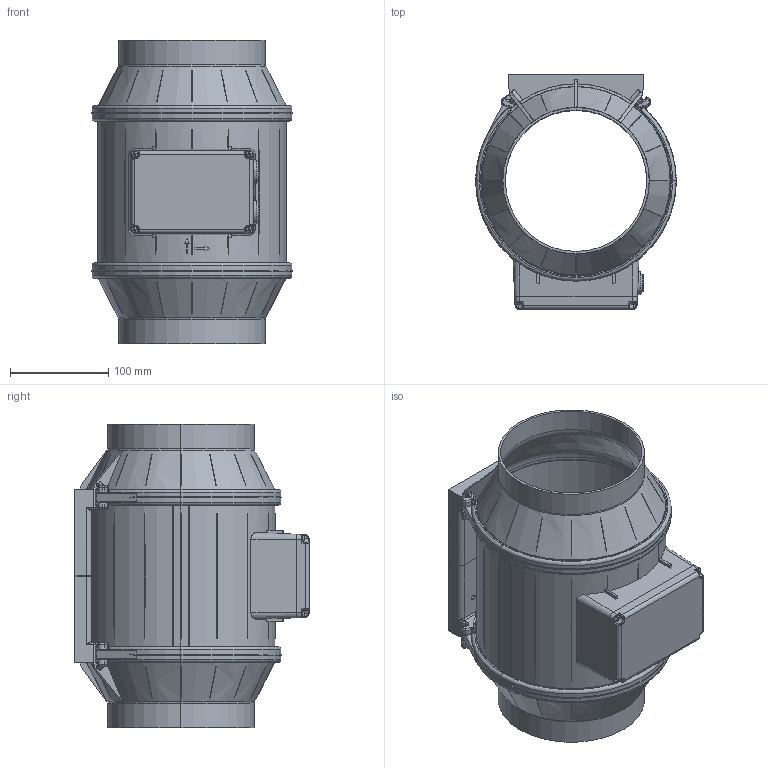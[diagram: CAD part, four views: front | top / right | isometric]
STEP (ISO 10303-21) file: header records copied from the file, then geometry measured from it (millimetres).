
FILE_DESCRIPTION (( 'STEP AP203' ), '1' );
FILE_NAME ('128588-01_EM150LEC01.STEP', '2014-09-26T09:28:20', ( '' ), ( '' ), 'SwSTEP 2.0', 'SolidWorks 2012', '' );
FILE_SCHEMA (( 'CONFIG_CONTROL_DESIGN' ));
Products named in the file (1): 128588-01_EM150LEC01
Bounding box: 204 x 238.55 x 309 mm (x, y, z)
Surface area: 490577.5 mm2 (no closed solid volume)
Topology: 0 solids, 21 shells, 1278 faces, 4286 edges, 2870 vertices
Faces by surface type: cylinder 436, plane 342, torus 214, bspline 188, cone 80, sphere 18
Entity records: 68083 total; most frequent: CARTESIAN_POINT 34166, ORIENTED_EDGE 6890, DIRECTION 6619, EDGE_CURVE 4248, VERTEX_POINT 2862, AXIS2_PLACEMENT_3D 2523, LINE 1573, VECTOR 1573
